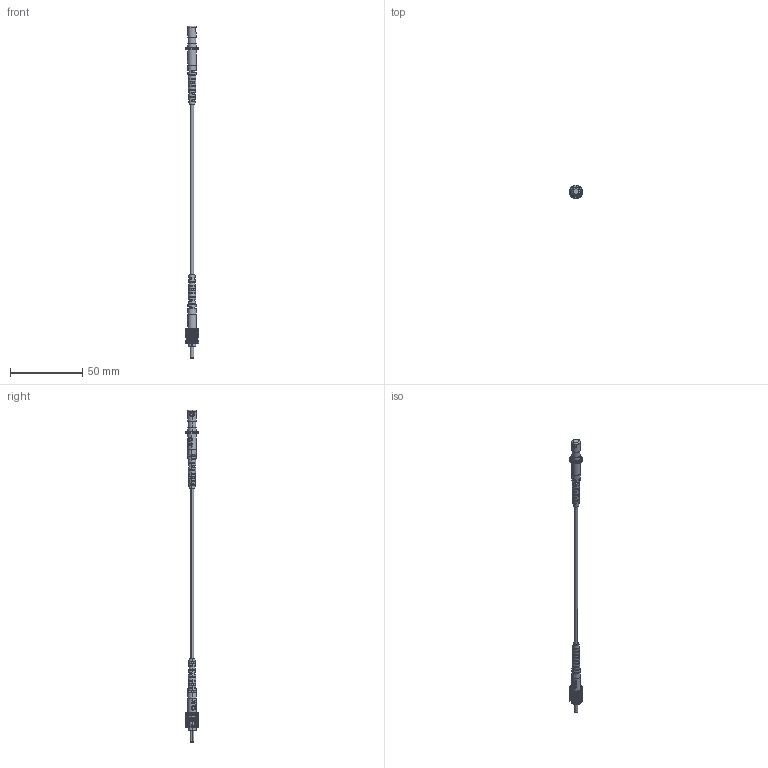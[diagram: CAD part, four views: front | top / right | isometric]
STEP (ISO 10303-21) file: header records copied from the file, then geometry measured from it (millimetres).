
FILE_DESCRIPTION (( 'STEP AP214' ), '1' );
FILE_NAME ('PRB-GB2-TP2.STEP', '2016-01-01T00:18:41', ( 'Daryl' ), ( 'Microsoft' ), 'SwSTEP 2.0', 'SolidWorks 2014', '' );
FILE_SCHEMA (( 'AUTOMOTIVE_DESIGN' ));
Length unit declared in the file: millimetre
Products named in the file (1): PRB-GB2-TP2
Bounding box: 9.02 x 9.02 x 229.12 mm (x, y, z)
Surface area: 4697.8 mm2 (no closed solid volume)
Topology: 0 solids, 9 shells, 733 faces, 2194 edges, 1426 vertices
Faces by surface type: plane 398, cylinder 281, bspline 32, cone 14, torus 8
Entity records: 35220 total; most frequent: CARTESIAN_POINT 8301, ORIENTED_EDGE 4268, DIRECTION 3731, EDGE_CURVE 2192, VERTEX_POINT 1426, VECTOR 1291, LINE 1291, AXIS2_PLACEMENT_3D 1220
